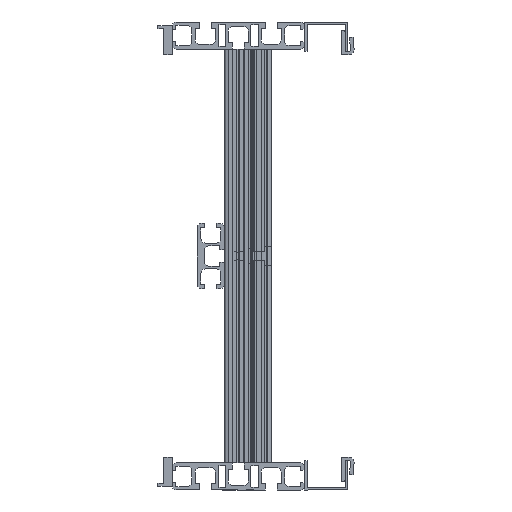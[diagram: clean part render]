
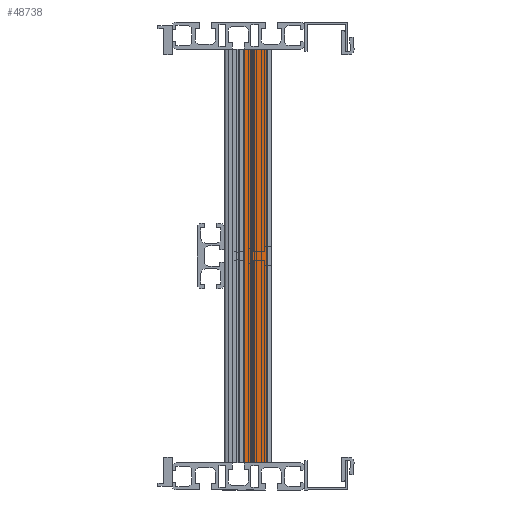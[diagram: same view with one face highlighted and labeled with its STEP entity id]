
A CAD part, left-side view. The second image highlights one B-rep face of the part: STEP entity #48738.
In plain terms, the highlighted planar face has unit normal (-1, 0, 0).
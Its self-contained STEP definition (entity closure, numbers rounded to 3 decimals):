
#1006 = CARTESIAN_POINT ( 'NONE',  ( -2410., -49.15, -141.5 ) ) ;
#1007 = DIRECTION ( 'NONE',  ( 0., 0., 1. ) ) ;
#1276 = CARTESIAN_POINT ( 'NONE',  ( -2410., -65., -141.5 ) ) ;
#1282 = DIRECTION ( 'NONE',  ( 0., 0., 1. ) ) ;
#1572 = LINE ( 'NONE', #1006, #1573 ) ;
#1573 = VECTOR ( 'NONE', #1007, 1000. ) ;
#1740 = LINE ( 'NONE', #1276, #1744 ) ;
#1744 = VECTOR ( 'NONE', #1282, 1000. ) ;
#1786 = LINE ( 'NONE', #2510, #1789 ) ;
#1789 = VECTOR ( 'NONE', #2511, 1000. ) ;
#1992 = LINE ( 'NONE', #2913, #1994 ) ;
#1994 = VECTOR ( 'NONE', #2914, 1000. ) ;
#2510 = CARTESIAN_POINT ( 'NONE',  ( -2410., -65., 141.5 ) ) ;
#2511 = DIRECTION ( 'NONE',  ( 0., 1., 0. ) ) ;
#2913 = CARTESIAN_POINT ( 'NONE',  ( -2410., -65., -141.5 ) ) ;
#2914 = DIRECTION ( 'NONE',  ( 0., 1., 0. ) ) ;
#5410 = AXIS2_PLACEMENT_3D ( 'NONE', #14324, #14330, #14331 ) ;
#12857 = FACE_OUTER_BOUND ( 'NONE', #52660, .T. ) ;
#14324 = CARTESIAN_POINT ( 'NONE',  ( -2410., -65., -141.5 ) ) ;
#14328 = PLANE ( 'NONE',  #5410 ) ;
#14330 = DIRECTION ( 'NONE',  ( 1., 0., 0. ) ) ;
#14331 = DIRECTION ( 'NONE',  ( 0., 0., -1. ) ) ;
#20880 = VERTEX_POINT ( 'NONE', #32568 ) ;
#20912 = VERTEX_POINT ( 'NONE', #32585 ) ;
#20961 = VERTEX_POINT ( 'NONE', #32610 ) ;
#21010 = VERTEX_POINT ( 'NONE', #32636 ) ;
#22192 = ORIENTED_EDGE ( 'NONE', *, *, #46274, .T. ) ;
#22194 = ORIENTED_EDGE ( 'NONE', *, *, #46434, .F. ) ;
#22196 = ORIENTED_EDGE ( 'NONE', *, *, #46166, .F. ) ;
#22198 = ORIENTED_EDGE ( 'NONE', *, *, #46302, .T. ) ;
#32568 = CARTESIAN_POINT ( 'NONE',  ( -2410., -49.15, -141.5 ) ) ;
#32585 = CARTESIAN_POINT ( 'NONE',  ( -2410., -49.15, 141.5 ) ) ;
#32610 = CARTESIAN_POINT ( 'NONE',  ( -2410., -65., -141.5 ) ) ;
#32636 = CARTESIAN_POINT ( 'NONE',  ( -2410., -65., 141.5 ) ) ;
#46166 = EDGE_CURVE ( 'NONE', #20880, #20912, #1572, .T. ) ;
#46274 = EDGE_CURVE ( 'NONE', #20961, #21010, #1740, .T. ) ;
#46302 = EDGE_CURVE ( 'NONE', #21010, #20912, #1786, .T. ) ;
#46434 = EDGE_CURVE ( 'NONE', #20961, #20880, #1992, .T. ) ;
#48738 = ADVANCED_FACE ( 'NONE', ( #12857 ), #14328, .F. ) ;
#52660 = EDGE_LOOP ( 'NONE', ( #22198, #22196, #22194, #22192 ) ) ;
